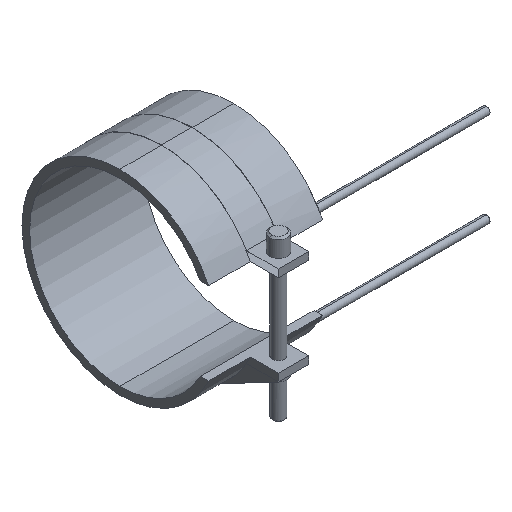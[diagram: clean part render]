
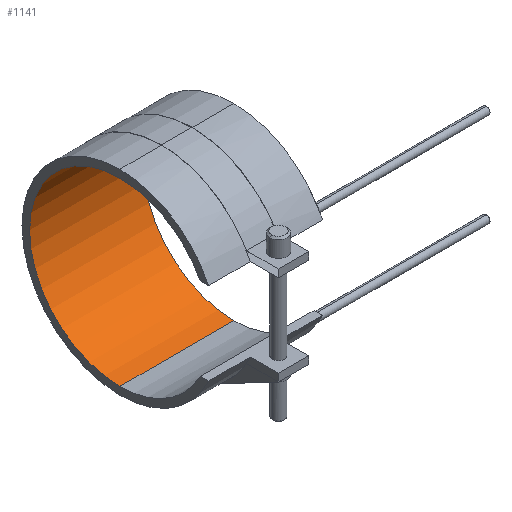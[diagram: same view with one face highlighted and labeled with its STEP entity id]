
A CAD part, isometric view. The second image highlights one B-rep face of the part: STEP entity #1141.
In plain terms, the highlighted cylindrical face has radius 47.5 mm (diameter 95 mm), a partial arc.
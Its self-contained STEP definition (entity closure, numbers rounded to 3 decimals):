
#822=CARTESIAN_POINT('Vertex',(-30.,0.,-47.5)) ;
#829=CARTESIAN_POINT('Vertex',(30.,0.,-47.5)) ;
#832=CARTESIAN_POINT('Line Origine',(30.,0.,-47.5)) ;
#850=CARTESIAN_POINT('Axis2P3D Location',(-30.,0.,0.)) ;
#854=CARTESIAN_POINT('Vertex',(-30.,0.,47.5)) ;
#911=CARTESIAN_POINT('Vertex',(30.,0.,47.5)) ;
#921=CARTESIAN_POINT('Line Origine',(30.,0.,47.5)) ;
#1012=CARTESIAN_POINT('Axis2P3D Location',(30.,0.,0.)) ;
#1130=CARTESIAN_POINT('Axis2P3D Location',(30.,0.,0.)) ;
#833=DIRECTION('Vector Direction',(1.,0.,0.)) ;
#851=DIRECTION('Axis2P3D Direction',(1.,0.,0.)) ;
#922=DIRECTION('Vector Direction',(1.,0.,0.)) ;
#1013=DIRECTION('Axis2P3D Direction',(1.,0.,0.)) ;
#1131=DIRECTION('Axis2P3D Direction',(1.,0.,-0.)) ;
#1132=DIRECTION('Axis2P3D XDirection',(0.,0.,-1.)) ;
#852=AXIS2_PLACEMENT_3D('Circle Axis2P3D',#850,#851,$) ;
#1014=AXIS2_PLACEMENT_3D('Circle Axis2P3D',#1012,#1013,$) ;
#1133=AXIS2_PLACEMENT_3D('Cylinder Axis2P3D',#1130,#1131,#1132) ;
#1136=ORIENTED_EDGE('',*,*,#1016,.T.) ;
#1137=ORIENTED_EDGE('',*,*,#925,.T.) ;
#1138=ORIENTED_EDGE('',*,*,#856,.F.) ;
#1139=ORIENTED_EDGE('',*,*,#836,.T.) ;
#834=VECTOR('Line Direction',#833,1.) ;
#923=VECTOR('Line Direction',#922,1.) ;
#1141=ADVANCED_FACE('14095060',(#1140),#1134,.F.) ;
#853=CIRCLE('generated circle',#852,47.5) ;
#1015=CIRCLE('generated circle',#1014,47.5) ;
#1134=CYLINDRICAL_SURFACE('generated cylinder',#1133,47.5) ;
#836=EDGE_CURVE('',#823,#830,#835,.T.) ;
#856=EDGE_CURVE('',#823,#855,#853,.T.) ;
#925=EDGE_CURVE('',#912,#855,#924,.F.) ;
#1016=EDGE_CURVE('',#830,#912,#1015,.T.) ;
#1135=EDGE_LOOP('',(#1136,#1137,#1138,#1139)) ;
#1140=FACE_OUTER_BOUND('',#1135,.T.) ;
#835=LINE('Line',#832,#834) ;
#924=LINE('Line',#921,#923) ;
#823=VERTEX_POINT('',#822) ;
#830=VERTEX_POINT('',#829) ;
#855=VERTEX_POINT('',#854) ;
#912=VERTEX_POINT('',#911) ;
